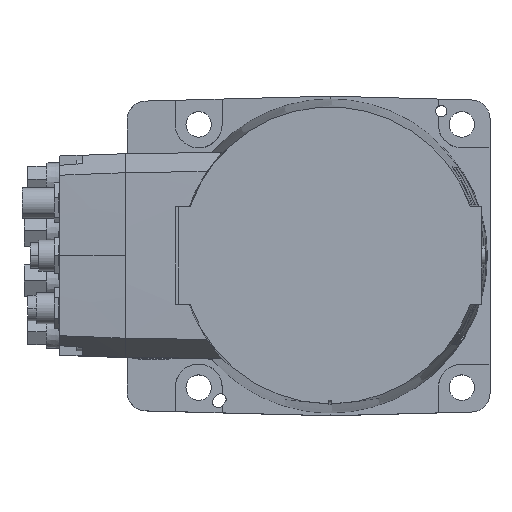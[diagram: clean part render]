
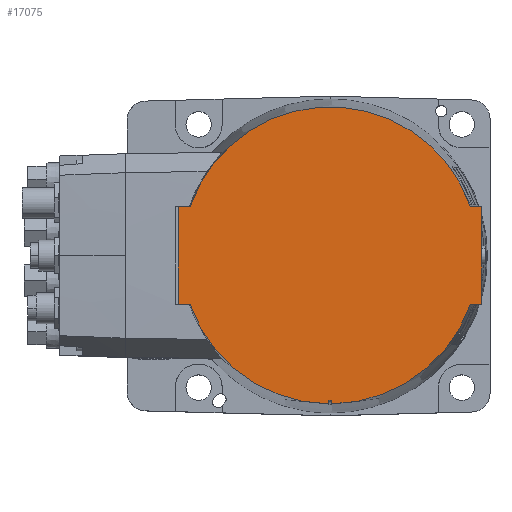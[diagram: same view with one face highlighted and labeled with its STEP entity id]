
A CAD part, top view. The second image highlights one B-rep face of the part: STEP entity #17075.
In plain terms, the highlighted planar face has unit normal (0, 0, 1).
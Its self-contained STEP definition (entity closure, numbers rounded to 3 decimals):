
#418 = CARTESIAN_POINT ( 'NONE',  ( -81., -26.009, 191.4 ) ) ;
#897 = DIRECTION ( 'NONE',  ( 0., 1., 0. ) ) ;
#1227 = CARTESIAN_POINT ( 'NONE',  ( -74.544, 26.121, 191.4 ) ) ;
#1692 = EDGE_CURVE ( 'NONE', #19936, #31737, #10404, .T. ) ;
#1800 = EDGE_CURVE ( 'NONE', #18685, #20219, #29328, .T. ) ;
#2029 = DIRECTION ( 'NONE',  ( 0., 0., -1. ) ) ;
#2130 = LINE ( 'NONE', #5392, #31823 ) ;
#2303 = ORIENTED_EDGE ( 'NONE', *, *, #6966, .T. ) ;
#2453 = EDGE_CURVE ( 'NONE', #13849, #23129, #18125, .T. ) ;
#2592 = VERTEX_POINT ( 'NONE', #21627 ) ;
#2964 = DIRECTION ( 'NONE',  ( 1., 0., 0. ) ) ;
#3099 = EDGE_LOOP ( 'NONE', ( #21326, #14071, #2303, #15593, #19118, #31742, #29494, #12988, #24054, #10207, #19143, #17853 ) ) ;
#3340 = AXIS2_PLACEMENT_3D ( 'NONE', #26297, #4199, #31147 ) ;
#3965 = AXIS2_PLACEMENT_3D ( 'NONE', #10265, #14861, #2964 ) ;
#4199 = DIRECTION ( 'NONE',  ( 0., 0., -1. ) ) ;
#5049 = EDGE_CURVE ( 'NONE', #31737, #8759, #24995, .T. ) ;
#5080 = EDGE_CURVE ( 'NONE', #22674, #16727, #26536, .T. ) ;
#5392 = CARTESIAN_POINT ( 'NONE',  ( -81.5, 26., 191.4 ) ) ;
#6558 = VERTEX_POINT ( 'NONE', #16553 ) ;
#6966 = EDGE_CURVE ( 'NONE', #6558, #2592, #16582, .T. ) ;
#7322 = EDGE_CURVE ( 'NONE', #17296, #16727, #25844, .T. ) ;
#7690 = CARTESIAN_POINT ( 'NONE',  ( -81., 26.009, 191.4 ) ) ;
#7753 = AXIS2_PLACEMENT_3D ( 'NONE', #28759, #21391, #13902 ) ;
#8024 = DIRECTION ( 'NONE',  ( 0., 1., 0. ) ) ;
#8759 = VERTEX_POINT ( 'NONE', #9331 ) ;
#8787 = AXIS2_PLACEMENT_3D ( 'NONE', #24225, #2029, #11882 ) ;
#8832 = EDGE_CURVE ( 'NONE', #8759, #2592, #14130, .T. ) ;
#9056 = CARTESIAN_POINT ( 'NONE',  ( 74.544, 26.121, 191.4 ) ) ;
#9141 = VECTOR ( 'NONE', #20013, 1000. ) ;
#9331 = CARTESIAN_POINT ( 'NONE',  ( 80.5, 26.017, 191.4 ) ) ;
#9864 = FACE_OUTER_BOUND ( 'NONE', #3099, .T. ) ;
#9972 = DIRECTION ( 'NONE',  ( 1., -0.017, 0. ) ) ;
#10207 = ORIENTED_EDGE ( 'NONE', *, *, #2453, .F. ) ;
#10265 = CARTESIAN_POINT ( 'NONE',  ( 0., 0., 191.4 ) ) ;
#10367 = CARTESIAN_POINT ( 'NONE',  ( 80.5, 0., 191.4 ) ) ;
#10404 = CIRCLE ( 'NONE', #3965, 78.988 ) ;
#10945 = EDGE_CURVE ( 'NONE', #13849, #22674, #16449, .T. ) ;
#11641 = CARTESIAN_POINT ( 'NONE',  ( 0.479, -27.414, 191.4 ) ) ;
#11882 = DIRECTION ( 'NONE',  ( 1., 0., 0. ) ) ;
#12538 = DIRECTION ( 'NONE',  ( -1., -0.017, 0. ) ) ;
#12988 = ORIENTED_EDGE ( 'NONE', *, *, #1800, .F. ) ;
#13849 = VERTEX_POINT ( 'NONE', #26005 ) ;
#13902 = DIRECTION ( 'NONE',  ( 1., 0., 0. ) ) ;
#14071 = ORIENTED_EDGE ( 'NONE', *, *, #16194, .F. ) ;
#14130 = LINE ( 'NONE', #10367, #20323 ) ;
#14854 = CIRCLE ( 'NONE', #7753, 78.988 ) ;
#14861 = DIRECTION ( 'NONE',  ( 0., 0., -1. ) ) ;
#14965 = DIRECTION ( 'NONE',  ( 0., -1., 0. ) ) ;
#15593 = ORIENTED_EDGE ( 'NONE', *, *, #8832, .F. ) ;
#15716 = CARTESIAN_POINT ( 'NONE',  ( -81., 0., 191.4 ) ) ;
#16194 = EDGE_CURVE ( 'NONE', #6558, #17296, #14854, .T. ) ;
#16449 = LINE ( 'NONE', #29871, #9141 ) ;
#16515 = DIRECTION ( 'NONE',  ( -1., 0.017, 0. ) ) ;
#16553 = CARTESIAN_POINT ( 'NONE',  ( 74.544, -26.121, 191.4 ) ) ;
#16582 = LINE ( 'NONE', #11641, #26241 ) ;
#16727 = VERTEX_POINT ( 'NONE', #24584 ) ;
#17075 = ADVANCED_FACE ( 'NONE', ( #9864 ), #26923, .F. ) ;
#17296 = VERTEX_POINT ( 'NONE', #22077 ) ;
#17405 = CARTESIAN_POINT ( 'NONE',  ( 0., -77., 191.4 ) ) ;
#17616 = VECTOR ( 'NONE', #9972, 1000. ) ;
#17853 = ORIENTED_EDGE ( 'NONE', *, *, #5080, .T. ) ;
#18125 = CIRCLE ( 'NONE', #3340, 78.988 ) ;
#18685 = VERTEX_POINT ( 'NONE', #418 ) ;
#18871 = DIRECTION ( 'NONE',  ( 1., 0.017, 0. ) ) ;
#19118 = ORIENTED_EDGE ( 'NONE', *, *, #5049, .F. ) ;
#19143 = ORIENTED_EDGE ( 'NONE', *, *, #10945, .T. ) ;
#19936 = VERTEX_POINT ( 'NONE', #1227 ) ;
#20013 = DIRECTION ( 'NONE',  ( 0., 1., 0. ) ) ;
#20095 = DIRECTION ( 'NONE',  ( 1., 0., 0. ) ) ;
#20219 = VERTEX_POINT ( 'NONE', #7690 ) ;
#20323 = VECTOR ( 'NONE', #14965, 1000. ) ;
#21326 = ORIENTED_EDGE ( 'NONE', *, *, #7322, .F. ) ;
#21391 = DIRECTION ( 'NONE',  ( 0., 0., -1. ) ) ;
#21569 = VECTOR ( 'NONE', #897, 1000. ) ;
#21627 = CARTESIAN_POINT ( 'NONE',  ( 80.5, -26.017, 191.4 ) ) ;
#22077 = CARTESIAN_POINT ( 'NONE',  ( 0.75, -78.984, 191.4 ) ) ;
#22674 = VERTEX_POINT ( 'NONE', #23588 ) ;
#23129 = VERTEX_POINT ( 'NONE', #25806 ) ;
#23148 = VECTOR ( 'NONE', #16515, 1000. ) ;
#23588 = CARTESIAN_POINT ( 'NONE',  ( -0.75, -77., 191.4 ) ) ;
#24054 = ORIENTED_EDGE ( 'NONE', *, *, #24082, .F. ) ;
#24082 = EDGE_CURVE ( 'NONE', #23129, #18685, #24699, .T. ) ;
#24225 = CARTESIAN_POINT ( 'NONE',  ( 0., 0., 191.4 ) ) ;
#24584 = CARTESIAN_POINT ( 'NONE',  ( 0.75, -77., 191.4 ) ) ;
#24699 = LINE ( 'NONE', #30559, #23148 ) ;
#24995 = LINE ( 'NONE', #29408, #17616 ) ;
#25806 = CARTESIAN_POINT ( 'NONE',  ( -74.544, -26.121, 191.4 ) ) ;
#25844 = LINE ( 'NONE', #30226, #21569 ) ;
#25885 = VECTOR ( 'NONE', #8024, 1000. ) ;
#26005 = CARTESIAN_POINT ( 'NONE',  ( -0.75, -78.984, 191.4 ) ) ;
#26241 = VECTOR ( 'NONE', #18871, 1000. ) ;
#26297 = CARTESIAN_POINT ( 'NONE',  ( 0., 0., 191.4 ) ) ;
#26536 = LINE ( 'NONE', #17405, #31540 ) ;
#26923 = PLANE ( 'NONE',  #8787 ) ;
#28050 = EDGE_CURVE ( 'NONE', #19936, #20219, #2130, .T. ) ;
#28759 = CARTESIAN_POINT ( 'NONE',  ( 0., 0., 191.4 ) ) ;
#29328 = LINE ( 'NONE', #15716, #25885 ) ;
#29408 = CARTESIAN_POINT ( 'NONE',  ( 81.5, 26., 191.4 ) ) ;
#29494 = ORIENTED_EDGE ( 'NONE', *, *, #28050, .T. ) ;
#29871 = CARTESIAN_POINT ( 'NONE',  ( -0.75, 0., 191.4 ) ) ;
#30226 = CARTESIAN_POINT ( 'NONE',  ( 0.75, 0., 191.4 ) ) ;
#30559 = CARTESIAN_POINT ( 'NONE',  ( -0.479, -27.414, 191.4 ) ) ;
#31147 = DIRECTION ( 'NONE',  ( 1., 0., 0. ) ) ;
#31540 = VECTOR ( 'NONE', #20095, 1000. ) ;
#31737 = VERTEX_POINT ( 'NONE', #9056 ) ;
#31742 = ORIENTED_EDGE ( 'NONE', *, *, #1692, .F. ) ;
#31823 = VECTOR ( 'NONE', #12538, 1000. ) ;
